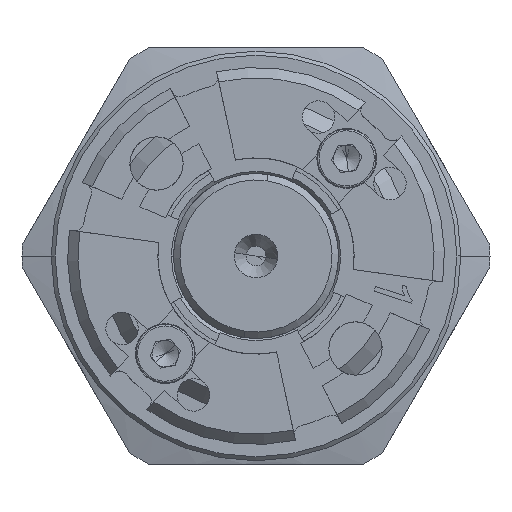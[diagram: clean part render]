
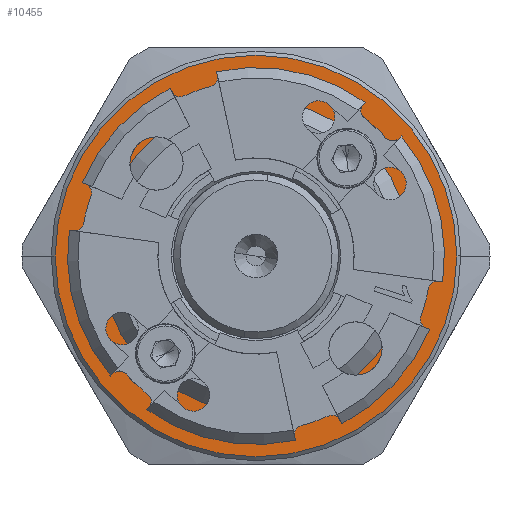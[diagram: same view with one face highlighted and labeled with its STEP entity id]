
A CAD part, front view. The second image highlights one B-rep face of the part: STEP entity #10455.
In plain terms, the highlighted planar face has unit normal (0, -1, 0).
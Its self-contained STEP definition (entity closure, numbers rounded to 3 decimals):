
#1201 = DIRECTION ( 'NONE',  ( 1., 0., 0. ) ) ;
#1396 = DIRECTION ( 'NONE',  ( -1., 0., 0. ) ) ;
#1413 = DIRECTION ( 'NONE',  ( -1., 0., 0. ) ) ;
#1460 = CIRCLE ( 'NONE', #22888, 15.45 ) ;
#2060 = DIRECTION ( 'NONE',  ( 0., -1., 0. ) ) ;
#2123 = EDGE_CURVE ( 'NONE', #15871, #22264, #13746, .T. ) ;
#3153 = EDGE_CURVE ( 'NONE', #6375, #17692, #1460, .T. ) ;
#5317 = CARTESIAN_POINT ( 'NONE',  ( 0., -15., 0. ) ) ;
#6321 = ORIENTED_EDGE ( 'NONE', *, *, #3153, .T. ) ;
#6375 = VERTEX_POINT ( 'NONE', #22797 ) ;
#6836 = PLANE ( 'NONE',  #21092 ) ;
#7153 = DIRECTION ( 'NONE',  ( 1., 0., 0. ) ) ;
#7918 = EDGE_CURVE ( 'NONE', #22264, #15871, #20199, .T. ) ;
#7920 = ORIENTED_EDGE ( 'NONE', *, *, #7918, .F. ) ;
#9549 = AXIS2_PLACEMENT_3D ( 'NONE', #5317, #18065, #7153 ) ;
#10455 = ADVANCED_FACE ( 'NONE', ( #14972, #20978 ), #6836, .F. ) ;
#10491 = EDGE_LOOP ( 'NONE', ( #18100, #7920 ) ) ;
#11986 = CARTESIAN_POINT ( 'NONE',  ( -11.9, -15., 0. ) ) ;
#12104 = DIRECTION ( 'NONE',  ( 0., -1., 0. ) ) ;
#12291 = DIRECTION ( 'NONE',  ( 0., -1., 0. ) ) ;
#12304 = DIRECTION ( 'NONE',  ( 0., 1., 0. ) ) ;
#12962 = CARTESIAN_POINT ( 'NONE',  ( 0., -15., 0. ) ) ;
#13746 = CIRCLE ( 'NONE', #9549, 11.9 ) ;
#14050 = CARTESIAN_POINT ( 'NONE',  ( 0., -15., 0. ) ) ;
#14131 = CARTESIAN_POINT ( 'NONE',  ( 15.45, -15., 0. ) ) ;
#14524 = EDGE_CURVE ( 'NONE', #17692, #6375, #22437, .T. ) ;
#14833 = DIRECTION ( 'NONE',  ( -1., 0., 0. ) ) ;
#14972 = FACE_OUTER_BOUND ( 'NONE', #23569, .T. ) ;
#15171 = AXIS2_PLACEMENT_3D ( 'NONE', #23066, #12104, #1201 ) ;
#15871 = VERTEX_POINT ( 'NONE', #21413 ) ;
#17692 = VERTEX_POINT ( 'NONE', #14131 ) ;
#18065 = DIRECTION ( 'NONE',  ( 0., -1., 0. ) ) ;
#18100 = ORIENTED_EDGE ( 'NONE', *, *, #2123, .F. ) ;
#20199 = CIRCLE ( 'NONE', #15171, 11.9 ) ;
#20978 = FACE_BOUND ( 'NONE', #10491, .T. ) ;
#21092 = AXIS2_PLACEMENT_3D ( 'NONE', #14050, #12304, #1413 ) ;
#21413 = CARTESIAN_POINT ( 'NONE',  ( 11.9, -15., 0. ) ) ;
#22264 = VERTEX_POINT ( 'NONE', #11986 ) ;
#22383 = AXIS2_PLACEMENT_3D ( 'NONE', #23239, #12291, #1396 ) ;
#22437 = CIRCLE ( 'NONE', #22383, 15.45 ) ;
#22797 = CARTESIAN_POINT ( 'NONE',  ( -15.45, -15., 0. ) ) ;
#22888 = AXIS2_PLACEMENT_3D ( 'NONE', #12962, #2060, #14833 ) ;
#23066 = CARTESIAN_POINT ( 'NONE',  ( 0., -15., 0. ) ) ;
#23239 = CARTESIAN_POINT ( 'NONE',  ( 0., -15., 0. ) ) ;
#23502 = ORIENTED_EDGE ( 'NONE', *, *, #14524, .T. ) ;
#23569 = EDGE_LOOP ( 'NONE', ( #6321, #23502 ) ) ;
